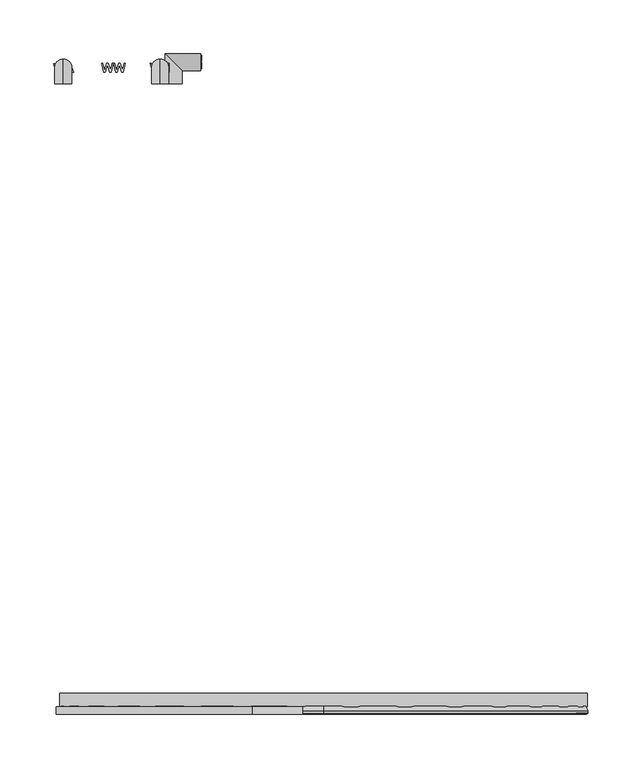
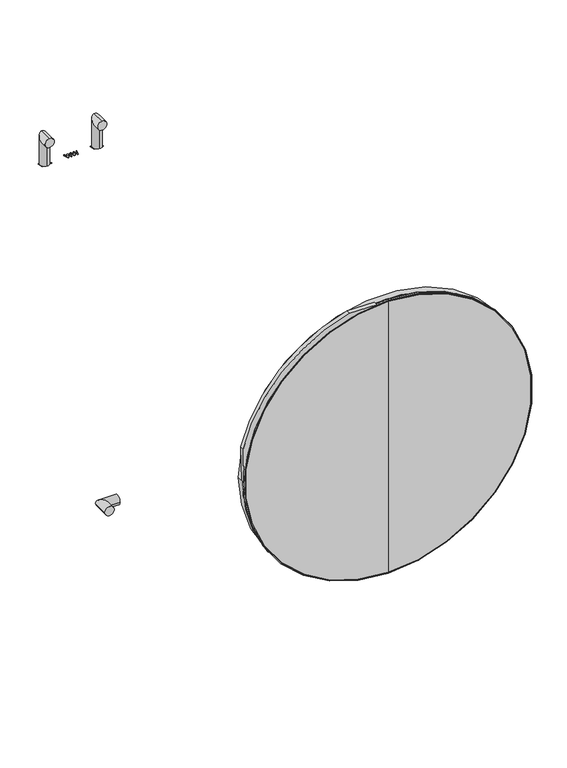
"""IFC4 building model written with IfcOpenShell, lengths in millimetres: proxy geometry, 12699240_TR_WQ1000WPS_LW : 11Q10002_TR_12699240_WQ1000WPS_LW."""

from ifc_helpers import new_model, si_unit, point, frame, frame_2d, origin, place, context, project, spatial, polyline, circle_curve, ellipse_curve, trimmed, segment, composite_curve, outline, extrude, source, transform, mapped, element, save
from ifc_brep_helpers import plane_surface, cylinder_surface, revolved_surface, advanced_brep


def specialty_equipment_55622e09(model_context):
    return source(origin(), model_context, "Body", "SolidModel", [
        advanced_brep(
        [(-242.6687967, -32.0, 743.4000001), (-242.6687967, -32.0, 759.4000001), (-242.6687967, -25.1000366, 743.4000001), (-242.6687967, -9.1000366, 759.4000001), (-242.6687967, -25.1000366, 705.6500001), (-242.6687967, -9.1000366, 705.6500001)],
        [
            (0, 1, circle_curve(frame((-242.6687967, -32.0, 751.4000001), z_axis=(0.0, -1.0, 0.0), x_axis=(0.0, 0.0, 1.0)), 8.0)),
            (1, 0, circle_curve(frame((-242.6687967, -32.0, 751.4000001), z_axis=(0.0, -1.0, 0.0), x_axis=(0.0, 0.0, 1.0)), 8.0)),
            (0, 2),
            (2, 3, ellipse_curve(frame((-242.6687967, -17.1000366, 751.4000001), z_axis=(0.0, -0.7071067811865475, 0.7071067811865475), x_axis=(0.0, -0.7071067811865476, -0.7071067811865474)), 11.3137085, 8.0)),
            (3, 1),
            (3, 2, ellipse_curve(frame((-242.6687967, -17.1000366, 751.4000001), z_axis=(0.0, -0.7071067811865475, 0.7071067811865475), x_axis=(0.0, -0.7071067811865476, -0.7071067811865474)), 11.3137085, 8.0)),
            (4, 5, circle_curve(frame((-242.6687967, -17.1000366, 705.6500001), z_axis=(0.0, 0.0, -1.0), x_axis=(0.0, 1.0, 0.0)), 8.0)),
            (5, 4, circle_curve(frame((-242.6687967, -17.1000366, 705.6500001), z_axis=(0.0, 0.0, -1.0), x_axis=(0.0, 1.0, 0.0)), 8.0)),
            (2, 4),
            (5, 3),
        ],
        [
            plane_surface(frame((-90.2872201, -32.0, 751.4000001), z_axis=(0.0, -1.0, 0.0), x_axis=(1.0, 0.0, 0.0))),
            cylinder_surface(frame((-242.6687967, -32.0, 751.4000001), z_axis=(0.0, -1.0, 0.0), x_axis=(0.0, 0.0, 1.0)), 8.0),
            plane_surface(frame((-90.2872201, -17.1000366, 705.6500001), z_axis=(0.0, 0.0, -1.0), x_axis=(1.0, 0.0, 0.0))),
            cylinder_surface(frame((-242.6687967, -17.1000366, 751.4000001), z_axis=(0.0, 0.0, 1.0), x_axis=(0.0, 1.0, 0.0)), 8.0),
        ],
        [
            (0, [[1, 2]]),
            (1, [[-1, 3, 4, 5]]),
            (1, [[-2, -5, 6, -3]]),
            (2, [[7, 8]]),
            (3, [[-4, 9, -8, 10]]),
            (3, [[-6, -10, -7, -9]]),
        ],
    ),
        advanced_brep(
        [(-152.3815765, -32.0, 743.4000001), (-152.3815765, -32.0, 759.4000001), (-152.3815765, -25.1000366, 743.4000001), (-152.3815765, -9.1000366, 759.4000001), (-152.3815765, -25.1000366, 705.6500001), (-152.3815765, -9.1000366, 705.6500001)],
        [
            (0, 1, circle_curve(frame((-152.3815765, -32.0, 751.4000001), z_axis=(0.0, -1.0, 0.0), x_axis=(0.0, 0.0, 1.0)), 8.0)),
            (1, 0, circle_curve(frame((-152.3815765, -32.0, 751.4000001), z_axis=(0.0, -1.0, 0.0), x_axis=(0.0, 0.0, 1.0)), 8.0)),
            (0, 2),
            (2, 3, ellipse_curve(frame((-152.3815765, -17.1000366, 751.4000001), z_axis=(0.0, -0.7071067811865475, 0.7071067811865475), x_axis=(0.0, -0.7071067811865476, -0.7071067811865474)), 11.3137085, 8.0)),
            (3, 1),
            (3, 2, ellipse_curve(frame((-152.3815765, -17.1000366, 751.4000001), z_axis=(0.0, -0.7071067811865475, 0.7071067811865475), x_axis=(0.0, -0.7071067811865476, -0.7071067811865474)), 11.3137085, 8.0)),
            (4, 5, circle_curve(frame((-152.3815765, -17.1000366, 705.6500001), z_axis=(0.0, 0.0, -1.0), x_axis=(0.0, 1.0, 0.0)), 8.0)),
            (5, 4, circle_curve(frame((-152.3815765, -17.1000366, 705.6500001), z_axis=(0.0, 0.0, -1.0), x_axis=(0.0, 1.0, 0.0)), 8.0)),
            (2, 4),
            (5, 3),
        ],
        [
            plane_surface(frame((1.0055866, -32.0, 751.4000001), z_axis=(0.0, -1.0, 0.0), x_axis=(1.0, 0.0, 0.0))),
            cylinder_surface(frame((-152.3815765, -32.0, 751.4000001), z_axis=(0.0, -1.0, 0.0), x_axis=(0.0, 0.0, 1.0)), 8.0),
            plane_surface(frame((1.0055866, -17.1000366, 705.6500001), z_axis=(0.0, 0.0, -1.0), x_axis=(1.0, 0.0, 0.0))),
            cylinder_surface(frame((-152.3815765, -17.1000366, 751.4000001), z_axis=(0.0, 0.0, 1.0), x_axis=(0.0, 1.0, 0.0)), 8.0),
        ],
        [
            (0, [[1, 2]]),
            (1, [[-1, 3, 4, 5]]),
            (1, [[-2, -5, 6, -3]]),
            (2, [[7, 8]]),
            (3, [[-4, 9, -8, 10]]),
            (3, [[-6, -10, -7, -9]]),
        ],
    ),
        extrude(outline(polyline([(-152.9097049, -21.1040968), (-154.1222405, -21.1040968), (-155.8927452, -15.0877991), (-156.1974037, -14.046687), (-156.4641211, -14.9125894), (-158.3778871, -21.1172479), (-159.4530804, -21.1172479), (-161.6620355, -13.0886182), (-160.6241208, -13.0886182), (-159.3300982, -18.4119186), (-158.945656, -19.9943627), (-158.0914116, -17.0453197), (-156.9433495, -13.0772697), (-155.4502434, -13.0772697), (-153.843918, -18.5399914), (-153.4205749, -19.9810749), (-153.0320899, -18.3496828), (-151.7733961, -13.0648359), (-150.7374434, -13.0648359), (-152.9097049, -21.1040968)])), frame((0.0, 0.0, 704.6500001), z_axis=(0.0, 0.0, 1.0), x_axis=(1.0, 0.0, 0.0)), (0.0, 0.0, 1.0), 1.0),
        extrude(outline(polyline([(-144.0725682, -21.0828202), (-145.0674645, -21.0828202), (-145.0674645, -18.3226956), (-146.4290531, -17.03493), (-149.4898838, -21.0958721), (-150.7181156, -21.0958721), (-147.1429033, -16.35778), (-150.6118734, -13.0620425), (-149.2070587, -13.0620425), (-145.0773313, -16.982628), (-145.0773313, -13.0487546), (-144.0822321, -13.0487546), (-144.0725682, -21.0828202)])), frame((0.0, 0.0, 704.6500001), z_axis=(0.0, 0.0, 1.0), x_axis=(1.0, 0.0, 0.0)), (0.0, 0.0, 1.0), 1.0),
        extrude(outline(polyline([(-187.0822388, -21.0890931), (-188.2947743, -21.0890931), (-190.065279, -15.0727954), (-190.3699375, -14.0316833), (-190.6366549, -14.8975857), (-192.5504209, -21.1022442), (-193.6256143, -21.1022442), (-195.8345694, -13.0736145), (-194.7966546, -13.0736145), (-193.502632, -18.3969149), (-193.1181899, -19.979359), (-192.2639455, -17.030316), (-191.1158833, -13.062266), (-189.6227772, -13.062266), (-188.0164518, -18.5249877), (-187.5931088, -19.9660712), (-187.2046237, -18.3346791), (-185.9459299, -13.0498323), (-184.9099772, -13.0498323), (-187.0822388, -21.0890931)])), frame((0.0, 0.0, 704.6500001), z_axis=(0.0, 0.0, 1.0), x_axis=(1.0, 0.0, 0.0)), (0.0, 0.0, 1.0), 1.0),
        extrude(outline(polyline([(-198.257971, -21.1159709), (-199.4705065, -21.1159709), (-201.2410112, -15.0996731), (-201.5456697, -14.058561), (-201.8123871, -14.9244634), (-203.7261531, -21.1291219), (-204.8013465, -21.1291219), (-207.0103016, -13.1004922), (-205.9723868, -13.1004922), (-204.6783642, -18.4237926), (-204.293922, -20.0062367), (-203.4396776, -17.0571937), (-202.2916155, -13.0891438), (-200.7985094, -13.0891438), (-199.192184, -18.5518654), (-198.768841, -19.9929489), (-198.3803559, -18.3615569), (-197.1216621, -13.07671), (-196.0857094, -13.07671), (-198.257971, -21.1159709)])), frame((0.0, 0.0, 704.6500001), z_axis=(0.0, 0.0, 1.0), x_axis=(1.0, 0.0, 0.0)), (0.0, 0.0, 1.0), 1.0),
        extrude(outline(polyline([(-233.1563624, -21.4455598), (-234.2158595, -21.4455598), (-235.1401302, -18.9389157), (-238.4520396, -18.9389157), (-239.3642305, -21.4604898), (-240.4256896, -21.4604898), (-237.2390577, -13.4188506), (-236.3836119, -13.4188506), (-233.1563624, -21.4455598)]), holes=[polyline([(-235.5114082, -17.9383405), (-236.3033498, -15.7887102), (-236.8069568, -14.4223774), (-237.3663557, -15.9639265), (-238.0875557, -17.9414383), (-235.5114082, -17.9383405)])]), frame((0.0, 0.0, 704.6500001), z_axis=(0.0, 0.0, 1.0), x_axis=(1.0, 0.0, 0.0)), (0.0, 0.0, 1.0), 1.0),
        extrude(outline(polyline([(-242.9370901, -21.4690825), (-244.1496257, -21.4690825), (-245.9201304, -15.4527848), (-246.2247889, -14.4116727), (-246.4915063, -15.2775751), (-248.4052723, -21.4822335), (-249.4804656, -21.4822335), (-251.6894207, -13.4536039), (-250.651506, -13.4536039), (-249.3574833, -18.7769043), (-248.9730412, -20.3593484), (-248.1187968, -17.4103054), (-246.9707346, -13.4422554), (-245.4776286, -13.4422554), (-243.8713031, -18.9049771), (-243.4479601, -20.3460605), (-243.059475, -18.7146685), (-241.8007813, -13.4298216), (-240.7648286, -13.4298216), (-242.9370901, -21.4690825)])), frame((0.0, 0.0, 704.6500001), z_axis=(0.0, 0.0, 1.0), x_axis=(1.0, 0.0, 0.0)), (0.0, 0.0, 1.0), 1.0),
        advanced_brep(
        [(-131.7000084, -32.0, 47.1000009), (-147.7000084, -32.0, 47.1000009), (-131.7000084, -20.0, 47.1000009), (-147.7000084, -4.0, 47.1000009), (-114.7000084, -20.0, 47.1000009), (-114.7000084, -4.0, 47.1000009)],
        [
            (0, 1, circle_curve(frame((-139.7000084, -32.0, 47.1000009), z_axis=(0.0, -1.0, 0.0), x_axis=(-1.0, 0.0, 0.0)), 8.0)),
            (1, 0, circle_curve(frame((-139.7000084, -32.0, 47.1000009), z_axis=(0.0, -1.0, 0.0), x_axis=(-1.0, 0.0, 0.0)), 8.0)),
            (0, 2),
            (2, 3, ellipse_curve(frame((-139.7000084, -12.0, 47.1000009), z_axis=(-0.7071067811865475, -0.7071067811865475, 0.0), x_axis=(0.7071067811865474, -0.7071067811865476, 0.0)), 11.3137085, 8.0)),
            (3, 1),
            (3, 2, ellipse_curve(frame((-139.7000084, -12.0, 47.1000009), z_axis=(-0.7071067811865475, -0.7071067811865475, 0.0), x_axis=(0.7071067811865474, -0.7071067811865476, 0.0)), 11.3137085, 8.0)),
            (4, 5, circle_curve(frame((-114.7000084, -12.0, 47.1000009), z_axis=(1.0, 0.0, 0.0), x_axis=(0.0, 1.0, 0.0)), 8.0)),
            (5, 4, circle_curve(frame((-114.7000084, -12.0, 47.1000009), z_axis=(1.0, 0.0, 0.0), x_axis=(0.0, 1.0, 0.0)), 8.0)),
            (2, 4),
            (5, 3),
        ],
        [
            plane_surface(frame((-139.7000084, -32.0, 0.0), z_axis=(0.0, -1.0, 0.0), x_axis=(0.0, 0.0, 1.0))),
            cylinder_surface(frame((-139.7000084, -32.0, 47.1000009), z_axis=(0.0, -1.0, 0.0), x_axis=(-1.0, 0.0, 0.0)), 8.0),
            plane_surface(frame((-114.7000084, -12.0, 0.0), z_axis=(1.0, 0.0, 0.0), x_axis=(0.0, 0.0, 1.0))),
            cylinder_surface(frame((-139.7000084, -12.0, 47.1000009), z_axis=(-1.0, 0.0, 0.0), x_axis=(0.0, 1.0, 0.0)), 8.0),
        ],
        [
            (0, [[1, 2]]),
            (1, [[-1, 3, 4, 5]]),
            (1, [[-2, -5, 6, -3]]),
            (2, [[7, 8]]),
            (3, [[-4, 9, -8, 10]]),
            (3, [[-6, -10, -7, -9]]),
        ],
    ),
        extrude(outline(polyline([(-17.9018082, 43.3236689), (-17.9018082, 51.3601737), (-12.1255704, 51.3601737), (-12.1255704, 50.3556106), (-16.8972451, 50.3556106), (-16.8972451, 47.9697732), (-12.3767112, 47.9697732), (-12.3767112, 46.9652101), (-16.8972451, 46.9652101), (-16.8972451, 44.328232), (-12.0, 44.328232), (-12.0, 43.3236689), (-17.9018082, 43.3236689)])), frame((-114.7000084, 0.0, 0.0), z_axis=(1.0, 0.0, 0.0), x_axis=(0.0, 1.0, 0.0)), (0.0, 0.0, 1.0), 1.0),
        extrude(outline(polyline([(-10.4931553, 43.3236689), (-10.4931553, 51.3601737), (-9.4885922, 51.3601737), (-9.4885922, 44.328232), (-5.4703398, 44.328232), (-5.4703398, 43.3236689), (-10.4931553, 43.3236689)])), frame((-114.7000084, 0.0, 0.0), z_axis=(1.0, 0.0, 0.0), x_axis=(0.0, 1.0, 0.0)), (0.0, 0.0, 1.0), 1.0),
        advanced_brep(
        [(0.0, -612.0368516, 242.8085926), (0.0, -612.0368516, 734.7979489), (0.0, -612.0368516, 488.8032707), (0.0, -616.2398077, 240.937316), (0.0, -616.2398077, 736.6692255), (0.0, -618.5778464, 240.937316), (0.0, -618.5778464, 736.6692255), (0.0, -619.0547882, 241.6184595), (0.0, -619.0547882, 735.988082), (0.0, -619.3692986, 242.7032384), (0.0, -619.3692986, 734.9033031), (0.0, -619.3692986, 488.8032707)],
        [
            (0, 1, circle_curve(frame((0.0, -612.0368516, 488.8032707), z_axis=(0.0, 1.0, 0.0), x_axis=(0.0, 0.0, 1.0)), 245.9946781)),
            (1, 2),
            (2, 0),
            (1, 0, circle_curve(frame((0.0, -612.0368516, 488.8032707), z_axis=(0.0, 1.0, 0.0), x_axis=(0.0, 0.0, 1.0)), 245.9946781)),
            (3, 4, circle_curve(frame((0.0, -616.2398077, 488.8032707), z_axis=(0.0, 1.0, 0.0), x_axis=(0.0, 0.0, 1.0)), 247.8659547)),
            (4, 1),
            (0, 3),
            (4, 3, circle_curve(frame((0.0, -616.2398077, 488.8032707), z_axis=(0.0, 1.0, 0.0), x_axis=(0.0, 0.0, 1.0)), 247.8659547)),
            (5, 6, circle_curve(frame((0.0, -618.5778464, 488.8032707), z_axis=(0.0, 1.0, 0.0), x_axis=(0.0, 0.0, 1.0)), 247.8659547)),
            (6, 4),
            (3, 5),
            (6, 5, circle_curve(frame((0.0, -618.5778464, 488.8032707), z_axis=(0.0, 1.0, 0.0), x_axis=(0.0, 0.0, 1.0)), 247.8659547)),
            (7, 8, circle_curve(frame((0.0, -619.0547882, 488.8032707), z_axis=(0.0, 1.0, 0.0), x_axis=(0.0, 0.0, 1.0)), 247.1848113)),
            (8, 6),
            (5, 7),
            (8, 7, circle_curve(frame((0.0, -619.0547882, 488.8032707), z_axis=(0.0, 1.0, 0.0), x_axis=(0.0, 0.0, 1.0)), 247.1848113)),
            (9, 10, circle_curve(frame((0.0, -619.3692986, 488.8032707), z_axis=(0.0, 1.0, 0.0), x_axis=(0.0, 0.0, 1.0)), 246.1000324)),
            (10, 8),
            (7, 9),
            (10, 9, circle_curve(frame((0.0, -619.3692986, 488.8032707), z_axis=(0.0, 1.0, 0.0), x_axis=(0.0, 0.0, 1.0)), 246.1000324)),
            (11, 10),
            (9, 11),
        ],
        [
            plane_surface(frame((0.0, -612.0368516, 488.8032707), z_axis=(0.0, 1.0, 0.0), x_axis=(0.0, 0.0, 1.0))),
            revolved_surface(polyline([(0.0, -612.0368516, 734.7979489), (0.0, -616.2398077, 736.6692255)]), (0.0, -607.8754395, 488.8032707), (0.0, -1.0, 0.0)),
            cylinder_surface(frame((0.0, -607.8754395, 488.8032707), z_axis=(0.0, -1.0, 0.0), x_axis=(0.0, 0.0, 1.0)), 247.8659547),
            revolved_surface(polyline([(0.0, -618.5778464, 736.6692255), (0.0, -619.0547882, 735.988082)]), (0.0, -607.8754395, 488.8032707), (0.0, -1.0, 0.0)),
            revolved_surface(polyline([(0.0, -619.0547882, 735.988082), (0.0, -619.3692986, 734.9033031)]), (0.0, -607.8754395, 488.8032707), (0.0, -1.0, 0.0)),
            plane_surface(frame((0.0, -619.3692986, 488.8032707), z_axis=(0.0, -1.0, 0.0), x_axis=(0.0, 0.0, 1.0))),
        ],
        [
            (0, [[1, 2, 3]]),
            (0, [[4, -3, -2]]),
            (1, [[5, 6, -1, 7]]),
            (1, [[8, -7, -4, -6]]),
            (2, [[9, 10, -5, 11]]),
            (2, [[12, -11, -8, -10]]),
            (3, [[13, 14, -9, 15]]),
            (3, [[16, -15, -12, -14]]),
            (4, [[17, 18, -13, 19]]),
            (4, [[20, -19, -16, -18]]),
            (5, [[21, -17, 22]]),
            (5, [[-22, -20, -21]]),
        ],
    ),
        extrude(outline(composite_curve([segment(trimmed(circle_curve(frame_2d((488.8032707, 0.0)), 246.0), [point((488.8032707, -246.0))], [point((488.8032707, 246.0))], False, "CARTESIAN"), True, "CONTINUOUS"), segment(trimmed(circle_curve(frame_2d((488.8032707, 0.0)), 246.0), [point((488.8032707, 246.0))], [point((488.8032707, -246.0))], False, "CARTESIAN"), True, "CONTINUOUS")], self_intersect=False), holes=[composite_curve([segment(trimmed(circle_curve(frame_2d((488.8032707, 0.0)), 165.0), [point((488.8032707, 165.0))], [point((488.8032707, -165.0))], True, "CARTESIAN"), True, "CONTINUOUS"), segment(trimmed(circle_curve(frame_2d((488.8032707, 0.0)), 165.0), [point((488.8032707, -165.0))], [point((488.8032707, 165.0))], True, "CARTESIAN"), True, "CONTINUOUS")], self_intersect=False)]), frame((0.0, -612.219297, 0.0), z_axis=(0.0, 1.0, 0.0), x_axis=(0.0, 0.0, 1.0)), (0.0, 0.0, 1.0), 12.5192604),
        extrude(outline(composite_curve([segment(trimmed(circle_curve(frame_2d((488.8032707, 0.0)), 248.0), [point((492.7669893, -247.9683224))], [point((736.0239029, -19.6458396))], True, "CARTESIAN"), True, "CONTINUOUS"), segment(polyline([(736.0239029, -19.6458396), (736.6692255, -66.444722)]), True, "CONTINUOUS"), segment(trimmed(circle_curve(frame_2d((489.8279561, -2.4573191)), 255.0), [point((736.6692255, -66.444722))], [point((553.8153591, -249.2985884))], False, "CARTESIAN"), True, "CONTINUOUS"), segment(polyline([(553.8153591, -249.2985884), (492.7669893, -247.9683224)]), True, "CONTINUOUS")], self_intersect=False)), frame((0.0, -619.3692986, 0.0), z_axis=(0.0, 1.0, 0.0), x_axis=(0.0, 0.0, 1.0)), (0.0, 0.0, 1.0), 7.1500015),
    ])


if __name__ == "__main__":
    model = new_model("IFC4")
    model_context = context("Model", 3, world=origin())
    ifc_project = project(units=[si_unit("LENGTHUNIT", "METRE", prefix="MILLI")], contexts=[model_context])
    site = spatial("IfcSite", under=ifc_project)
    building = spatial("IfcBuilding", under=site)
    placement = place(None, origin())
    specialty_equipment_shape = specialty_equipment_55622e09(model_context)
    element("IfcBuildingElementProxy", 1, Name="12699240_TR_WQ1000WPS_LW : 11Q10002_TR_12699240_WQ1000WPS_LW", ObjectType="12699240_TR_WQ1000WPS_LW : 11Q10002_TR_12699240_WQ1000WPS_LW", at=placement, inside=building, context=model_context, shape_type="MappedRepresentation", body=[
        mapped(specialty_equipment_shape, transform((0.0, 0.0, 0.0), x_axis=(1.0, 0.0, 0.0), y_axis=(0.0, 1.0, 0.0), z_axis=(0.0, 0.0, 1.0))),
    ])
    save(model, "model.ifc")
